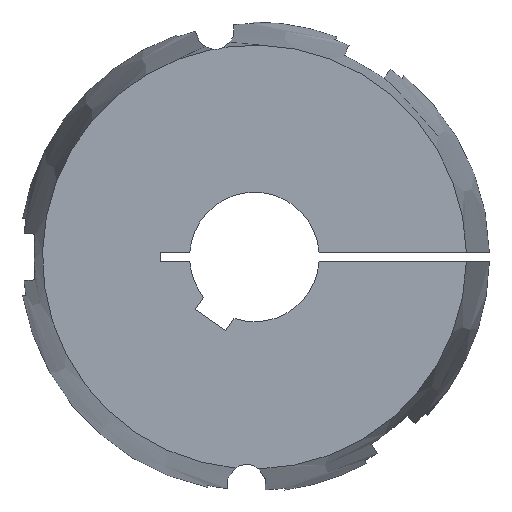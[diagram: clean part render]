
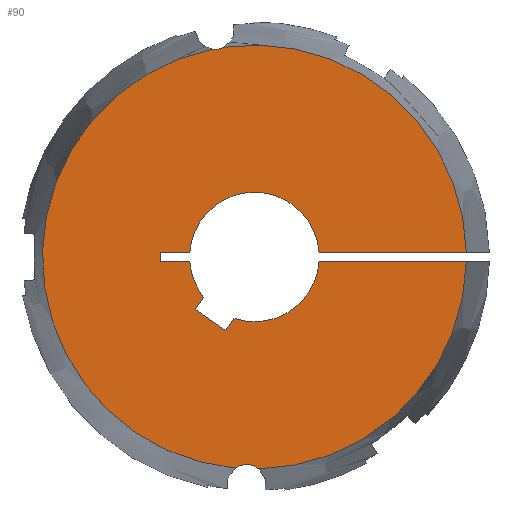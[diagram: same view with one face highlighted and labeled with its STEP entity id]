
A CAD part, left-side view. The second image highlights one B-rep face of the part: STEP entity #90.
In plain terms, the highlighted planar face has unit normal (-1, 0, 0).
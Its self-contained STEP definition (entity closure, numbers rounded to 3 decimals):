
#90 = ADVANCED_FACE( '', ( #140 ), #141, .F. );
#140 = FACE_OUTER_BOUND( '', #208, .T. );
#141 = PLANE( '', #209 );
#208 = EDGE_LOOP( '', ( #369, #370, #371, #372, #373, #374, #375, #376, #377, #378, #379, #380, #381, #382, #383, #384 ) );
#209 = AXIS2_PLACEMENT_3D( '', #385, #386, #387 );
#369 = ORIENTED_EDGE( '', *, *, #548, .F. );
#370 = ORIENTED_EDGE( '', *, *, #601, .F. );
#371 = ORIENTED_EDGE( '', *, *, #570, .T. );
#372 = ORIENTED_EDGE( '', *, *, #583, .T. );
#373 = ORIENTED_EDGE( '', *, *, #581, .T. );
#374 = ORIENTED_EDGE( '', *, *, #578, .T. );
#375 = ORIENTED_EDGE( '', *, *, #587, .T. );
#376 = ORIENTED_EDGE( '', *, *, #602, .T. );
#377 = ORIENTED_EDGE( '', *, *, #603, .T. );
#378 = ORIENTED_EDGE( '', *, *, #604, .T. );
#379 = ORIENTED_EDGE( '', *, *, #605, .T. );
#380 = ORIENTED_EDGE( '', *, *, #606, .T. );
#381 = ORIENTED_EDGE( '', *, *, #572, .T. );
#382 = ORIENTED_EDGE( '', *, *, #607, .F. );
#383 = ORIENTED_EDGE( '', *, *, #551, .F. );
#384 = ORIENTED_EDGE( '', *, *, #608, .F. );
#385 = CARTESIAN_POINT( '', ( -89., 0., 0. ) );
#386 = DIRECTION( '', ( 1., 0., 0. ) );
#387 = DIRECTION( '', ( 0., 1., 0. ) );
#548 = EDGE_CURVE( '', #649, #651, #652, .F. );
#551 = EDGE_CURVE( '', #655, #657, #658, .F. );
#570 = EDGE_CURVE( '', #693, #691, #694, .T. );
#572 = EDGE_CURVE( '', #696, #697, #698, .T. );
#578 = EDGE_CURVE( '', #709, #707, #710, .T. );
#581 = EDGE_CURVE( '', #714, #709, #715, .T. );
#583 = EDGE_CURVE( '', #691, #714, #717, .T. );
#587 = EDGE_CURVE( '', #707, #721, #723, .T. );
#601 = EDGE_CURVE( '', #693, #649, #745, .T. );
#602 = EDGE_CURVE( '', #721, #746, #747, .T. );
#603 = EDGE_CURVE( '', #746, #748, #749, .T. );
#604 = EDGE_CURVE( '', #748, #750, #751, .T. );
#605 = EDGE_CURVE( '', #750, #752, #753, .T. );
#606 = EDGE_CURVE( '', #752, #696, #754, .T. );
#607 = EDGE_CURVE( '', #657, #697, #755, .T. );
#608 = EDGE_CURVE( '', #651, #655, #756, .T. );
#649 = VERTEX_POINT( '', #815 );
#651 = VERTEX_POINT( '', #828 );
#652 = CIRCLE( '', #829, 5.25 );
#655 = VERTEX_POINT( '', #843 );
#657 = VERTEX_POINT( '', #861 );
#658 = CIRCLE( '', #862, 5.25 );
#691 = VERTEX_POINT( '', #935 );
#693 = VERTEX_POINT( '', #938 );
#694 = LINE( '', #939, #940 );
#696 = VERTEX_POINT( '', #948 );
#697 = VERTEX_POINT( '', #949 );
#698 = LINE( '', #950, #951 );
#707 = VERTEX_POINT( '', #969 );
#709 = VERTEX_POINT( '', #972 );
#710 = LINE( '', #973, #974 );
#714 = VERTEX_POINT( '', #980 );
#715 = LINE( '', #981, #982 );
#717 = CIRCLE( '', #985, 17.5 );
#721 = VERTEX_POINT( '', #990 );
#723 = LINE( '', #993, #994 );
#745 = CIRCLE( '', #1019, 57.277 );
#746 = VERTEX_POINT( '', #1020 );
#747 = CIRCLE( '', #1021, 17.5 );
#748 = VERTEX_POINT( '', #1022 );
#749 = LINE( '', #1023, #1024 );
#750 = VERTEX_POINT( '', #1025 );
#751 = LINE( '', #1026, #1027 );
#752 = VERTEX_POINT( '', #1028 );
#753 = LINE( '', #1029, #1030 );
#754 = CIRCLE( '', #1031, 17.5 );
#755 = CIRCLE( '', #1032, 57.277 );
#756 = CIRCLE( '', #1033, 57.277 );
#815 = CARTESIAN_POINT( '', ( -89., -1.169, -57.265 ) );
#828 = CARTESIAN_POINT( '', ( -89., 5.158, -57.044 ) );
#829 = AXIS2_PLACEMENT_3D( '', #1193, #1194, #1195 );
#843 = CARTESIAN_POINT( '', ( -89., 11.362, 56.138 ) );
#861 = CARTESIAN_POINT( '', ( -89., 8.229, 56.682 ) );
#862 = AXIS2_PLACEMENT_3D( '', #1196, #1197, #1198 );
#935 = CARTESIAN_POINT( '', ( -89., -17.455, -1.25 ) );
#938 = CARTESIAN_POINT( '', ( -89., -57.263, -1.25 ) );
#939 = CARTESIAN_POINT( '', ( -89., -63.5, -1.25 ) );
#940 = VECTOR( '', #1228, 1000. );
#948 = CARTESIAN_POINT( '', ( -89., -17.455, 1.25 ) );
#949 = CARTESIAN_POINT( '', ( -89., -57.263, 1.25 ) );
#950 = CARTESIAN_POINT( '', ( -89., 0., 1.25 ) );
#951 = VECTOR( '', #1229, 1000. );
#969 = CARTESIAN_POINT( '', ( -89., 16.026, -14.17 ) );
#972 = CARTESIAN_POINT( '', ( -89., 7.835, -19.906 ) );
#973 = CARTESIAN_POINT( '', ( -89., 7.835, -19.906 ) );
#974 = VECTOR( '', #1234, 1000. );
#980 = CARTESIAN_POINT( '', ( -89., 5.523, -16.605 ) );
#981 = CARTESIAN_POINT( '', ( -89., 5.523, -16.605 ) );
#982 = VECTOR( '', #1237, 1000. );
#985 = AXIS2_PLACEMENT_3D( '', #1239, #1240, #1241 );
#990 = CARTESIAN_POINT( '', ( -89., 13.715, -10.87 ) );
#993 = CARTESIAN_POINT( '', ( -89., 16.026, -14.17 ) );
#994 = VECTOR( '', #1247, 1000. );
#1019 = AXIS2_PLACEMENT_3D( '', #1281, #1282, #1283 );
#1020 = CARTESIAN_POINT( '', ( -89., 17.455, -1.25 ) );
#1021 = AXIS2_PLACEMENT_3D( '', #1284, #1285, #1286 );
#1022 = CARTESIAN_POINT( '', ( -89., 25.5, -1.25 ) );
#1023 = CARTESIAN_POINT( '', ( -89., 0., -1.25 ) );
#1024 = VECTOR( '', #1287, 1000. );
#1025 = CARTESIAN_POINT( '', ( -89., 25.5, 1.25 ) );
#1026 = CARTESIAN_POINT( '', ( -89., 25.5, -1.25 ) );
#1027 = VECTOR( '', #1288, 1000. );
#1028 = CARTESIAN_POINT( '', ( -89., 17.455, 1.25 ) );
#1029 = CARTESIAN_POINT( '', ( -89., 25.5, 1.25 ) );
#1030 = VECTOR( '', #1289, 1000. );
#1031 = AXIS2_PLACEMENT_3D( '', #1290, #1291, #1292 );
#1032 = AXIS2_PLACEMENT_3D( '', #1293, #1294, #1295 );
#1033 = AXIS2_PLACEMENT_3D( '', #1296, #1297, #1298 );
#1193 = CARTESIAN_POINT( '', ( -89., 2.141, -61.34 ) );
#1194 = DIRECTION( '', ( 1., 0., 0. ) );
#1195 = DIRECTION( '', ( 0., 1., 0. ) );
#1196 = CARTESIAN_POINT( '', ( -89., 10.652, 61.34 ) );
#1197 = DIRECTION( '', ( 1., 0., 0. ) );
#1198 = DIRECTION( '', ( 0., 1., 0. ) );
#1228 = DIRECTION( '', ( 0., 1., 0. ) );
#1229 = DIRECTION( '', ( 0., -1., 0. ) );
#1234 = DIRECTION( '', ( 0., 0.819, 0.574 ) );
#1237 = DIRECTION( '', ( 0., 0.574, -0.819 ) );
#1239 = CARTESIAN_POINT( '', ( -89., 0., 0. ) );
#1240 = DIRECTION( '', ( 1., 0., 0. ) );
#1241 = DIRECTION( '', ( 0., 0., -1. ) );
#1247 = DIRECTION( '', ( 0., -0.574, 0.819 ) );
#1281 = CARTESIAN_POINT( '', ( -89., 0., 0. ) );
#1282 = DIRECTION( '', ( 1., 0., 0. ) );
#1283 = DIRECTION( '', ( 0., 1., 0. ) );
#1284 = CARTESIAN_POINT( '', ( -89., 0., 0. ) );
#1285 = DIRECTION( '', ( 1., 0., 0. ) );
#1286 = DIRECTION( '', ( 0., 0., -1. ) );
#1287 = DIRECTION( '', ( 0., 1., 0. ) );
#1288 = DIRECTION( '', ( 0., 0., 1. ) );
#1289 = DIRECTION( '', ( 0., -1., 0. ) );
#1290 = CARTESIAN_POINT( '', ( -89., 0., 0. ) );
#1291 = DIRECTION( '', ( 1., 0., 0. ) );
#1292 = DIRECTION( '', ( 0., 0., -1. ) );
#1293 = CARTESIAN_POINT( '', ( -89., 0., 0. ) );
#1294 = DIRECTION( '', ( 1., 0., 0. ) );
#1295 = DIRECTION( '', ( 0., 1., 0. ) );
#1296 = CARTESIAN_POINT( '', ( -89., 0., 0. ) );
#1297 = DIRECTION( '', ( 1., 0., 0. ) );
#1298 = DIRECTION( '', ( 0., 1., 0. ) );
